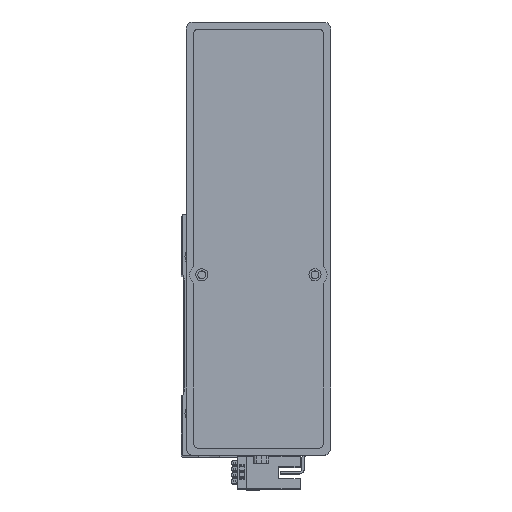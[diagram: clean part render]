
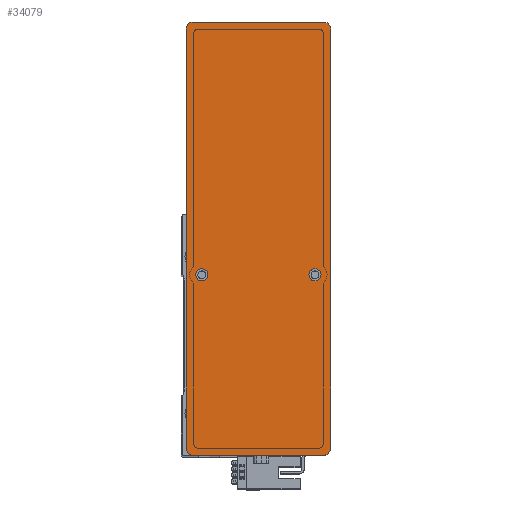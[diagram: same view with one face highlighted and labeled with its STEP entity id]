
A CAD part, top view. The second image highlights one B-rep face of the part: STEP entity #34079.
In plain terms, the highlighted planar face has unit normal (0, 0, 1) as drawn and (0, 0, -1) by its records, which use the part's own axes.
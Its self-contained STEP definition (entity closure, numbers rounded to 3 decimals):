
#76 = EDGE_LOOP ( 'NONE', ( #37734, #3587 ) ) ;
#1246 = VERTEX_POINT ( 'NONE', #21216 ) ;
#1843 = CARTESIAN_POINT ( 'NONE',  ( -87., -27., 0. ) ) ;
#1872 = VERTEX_POINT ( 'NONE', #12387 ) ;
#2768 = AXIS2_PLACEMENT_3D ( 'NONE', #11735, #33245, #14826 ) ;
#2986 = CIRCLE ( 'NONE', #11355, 3. ) ;
#3093 = CARTESIAN_POINT ( 'NONE',  ( 90., 30., 0. ) ) ;
#3587 = ORIENTED_EDGE ( 'NONE', *, *, #11272, .F. ) ;
#3686 = ORIENTED_EDGE ( 'NONE', *, *, #25617, .F. ) ;
#4386 = AXIS2_PLACEMENT_3D ( 'NONE', #21439, #24542, #6010 ) ;
#4894 = DIRECTION ( 'NONE',  ( 1., 0., 0. ) ) ;
#5344 = CARTESIAN_POINT ( 'NONE',  ( 90., -27., 0. ) ) ;
#5500 = CIRCLE ( 'NONE', #33505, 3. ) ;
#5827 = AXIS2_PLACEMENT_3D ( 'NONE', #6303, #27902, #9451 ) ;
#6010 = DIRECTION ( 'NONE',  ( 1., 0., 0. ) ) ;
#6303 = CARTESIAN_POINT ( 'NONE',  ( -15., 23.5, 0. ) ) ;
#6653 = LINE ( 'NONE', #14009, #22136 ) ;
#6791 = CARTESIAN_POINT ( 'NONE',  ( 87., -27., 0. ) ) ;
#6798 = CARTESIAN_POINT ( 'NONE',  ( -87., 27., 0. ) ) ;
#6962 = CARTESIAN_POINT ( 'NONE',  ( -87., 30., 0. ) ) ;
#7236 = DIRECTION ( 'NONE',  ( 1., 0., 0. ) ) ;
#7363 = ORIENTED_EDGE ( 'NONE', *, *, #35103, .F. ) ;
#7709 = DIRECTION ( 'NONE',  ( 0., 0., -1. ) ) ;
#7963 = FACE_OUTER_BOUND ( 'NONE', #12965, .T. ) ;
#8122 = CARTESIAN_POINT ( 'NONE',  ( -15., -23.5, 0. ) ) ;
#8200 = EDGE_CURVE ( 'NONE', #35787, #36024, #32770, .T. ) ;
#8280 = VERTEX_POINT ( 'NONE', #31199 ) ;
#9134 = VERTEX_POINT ( 'NONE', #36389 ) ;
#9347 = CARTESIAN_POINT ( 'NONE',  ( -15., -23.5, 0. ) ) ;
#9451 = DIRECTION ( 'NONE',  ( -1., 0., 0. ) ) ;
#9939 = DIRECTION ( 'NONE',  ( 1., 0., 0. ) ) ;
#9946 = DIRECTION ( 'NONE',  ( 1., 0., 0. ) ) ;
#10223 = AXIS2_PLACEMENT_3D ( 'NONE', #6791, #28360, #9939 ) ;
#10503 = VECTOR ( 'NONE', #37057, 1000. ) ;
#10843 = CARTESIAN_POINT ( 'NONE',  ( -17.5, 23.5, 0. ) ) ;
#10993 = VERTEX_POINT ( 'NONE', #10843 ) ;
#11249 = DIRECTION ( 'NONE',  ( -1., 0., 0. ) ) ;
#11272 = EDGE_CURVE ( 'NONE', #26203, #10993, #11602, .T. ) ;
#11355 = AXIS2_PLACEMENT_3D ( 'NONE', #26196, #7709, #29244 ) ;
#11602 = CIRCLE ( 'NONE', #5827, 2.5 ) ;
#11735 = CARTESIAN_POINT ( 'NONE',  ( -15., 23.5, 0. ) ) ;
#12230 = ORIENTED_EDGE ( 'NONE', *, *, #13960, .F. ) ;
#12387 = CARTESIAN_POINT ( 'NONE',  ( -17.5, -23.5, 0. ) ) ;
#12440 = AXIS2_PLACEMENT_3D ( 'NONE', #9347, #30862, #12447 ) ;
#12447 = DIRECTION ( 'NONE',  ( -1., 0., 0. ) ) ;
#12897 = CARTESIAN_POINT ( 'NONE',  ( -12.5, -23.5, 0. ) ) ;
#12965 = EDGE_LOOP ( 'NONE', ( #27522, #27464, #12230, #33723, #3686, #25960, #37235, #17663 ) ) ;
#13130 = EDGE_CURVE ( 'NONE', #1872, #18451, #19873, .T. ) ;
#13727 = CIRCLE ( 'NONE', #32280, 2.5 ) ;
#13804 = CARTESIAN_POINT ( 'NONE',  ( 90., -30., 0. ) ) ;
#13919 = CARTESIAN_POINT ( 'NONE',  ( 87., -30., 0. ) ) ;
#13937 = CIRCLE ( 'NONE', #10223, 3. ) ;
#13960 = EDGE_CURVE ( 'NONE', #33937, #20195, #6653, .T. ) ;
#14009 = CARTESIAN_POINT ( 'NONE',  ( 90., -30., 0. ) ) ;
#14826 = DIRECTION ( 'NONE',  ( -1., 0., 0. ) ) ;
#15766 = LINE ( 'NONE', #13804, #23987 ) ;
#16192 = FACE_BOUND ( 'NONE', #76, .T. ) ;
#16436 = VECTOR ( 'NONE', #24674, 1000. ) ;
#16856 = EDGE_CURVE ( 'NONE', #23369, #20195, #13937, .T. ) ;
#17478 = EDGE_CURVE ( 'NONE', #23369, #1246, #15766, .T. ) ;
#17663 = ORIENTED_EDGE ( 'NONE', *, *, #24249, .T. ) ;
#18445 = EDGE_CURVE ( 'NONE', #8280, #36024, #5500, .T. ) ;
#18451 = VERTEX_POINT ( 'NONE', #12897 ) ;
#18644 = CARTESIAN_POINT ( 'NONE',  ( -90., -30., 0. ) ) ;
#19161 = ORIENTED_EDGE ( 'NONE', *, *, #13130, .F. ) ;
#19873 = CIRCLE ( 'NONE', #12440, 2.5 ) ;
#20195 = VERTEX_POINT ( 'NONE', #13919 ) ;
#21216 = CARTESIAN_POINT ( 'NONE',  ( 90., 27., 0. ) ) ;
#21277 = CARTESIAN_POINT ( 'NONE',  ( -12.5, 23.5, 0. ) ) ;
#21439 = CARTESIAN_POINT ( 'NONE',  ( 0., 0., 0. ) ) ;
#22136 = VECTOR ( 'NONE', #7236, 1000. ) ;
#23369 = VERTEX_POINT ( 'NONE', #5344 ) ;
#23410 = DIRECTION ( 'NONE',  ( 0., 0., -1. ) ) ;
#23469 = CARTESIAN_POINT ( 'NONE',  ( -87., -30., 0. ) ) ;
#23634 = CIRCLE ( 'NONE', #2768, 2.5 ) ;
#23987 = VECTOR ( 'NONE', #32231, 1000. ) ;
#24249 = EDGE_CURVE ( 'NONE', #35787, #1246, #2986, .T. ) ;
#24409 = FACE_BOUND ( 'NONE', #39448, .T. ) ;
#24542 = DIRECTION ( 'NONE',  ( 0., 0., 1. ) ) ;
#24674 = DIRECTION ( 'NONE',  ( -1., 0., 0. ) ) ;
#25021 = EDGE_CURVE ( 'NONE', #10993, #26203, #23634, .T. ) ;
#25617 = EDGE_CURVE ( 'NONE', #8280, #9134, #34094, .T. ) ;
#25960 = ORIENTED_EDGE ( 'NONE', *, *, #18445, .T. ) ;
#26196 = CARTESIAN_POINT ( 'NONE',  ( 87., 27., 0. ) ) ;
#26203 = VERTEX_POINT ( 'NONE', #21277 ) ;
#26274 = CIRCLE ( 'NONE', #36020, 3. ) ;
#27464 = ORIENTED_EDGE ( 'NONE', *, *, #16856, .T. ) ;
#27522 = ORIENTED_EDGE ( 'NONE', *, *, #17478, .F. ) ;
#27902 = DIRECTION ( 'NONE',  ( 0., 0., -1. ) ) ;
#28360 = DIRECTION ( 'NONE',  ( 0., 0., -1. ) ) ;
#28371 = DIRECTION ( 'NONE',  ( 0., 0., -1. ) ) ;
#29244 = DIRECTION ( 'NONE',  ( 1., 0., 0. ) ) ;
#29441 = EDGE_CURVE ( 'NONE', #33937, #9134, #26274, .T. ) ;
#29666 = DIRECTION ( 'NONE',  ( 0., 0., -1. ) ) ;
#30862 = DIRECTION ( 'NONE',  ( 0., 0., -1. ) ) ;
#31199 = CARTESIAN_POINT ( 'NONE',  ( -90., 27., 0. ) ) ;
#32231 = DIRECTION ( 'NONE',  ( 0., 1., 0. ) ) ;
#32280 = AXIS2_PLACEMENT_3D ( 'NONE', #8122, #29666, #11249 ) ;
#32770 = LINE ( 'NONE', #3093, #16436 ) ;
#33245 = DIRECTION ( 'NONE',  ( 0., 0., -1. ) ) ;
#33505 = AXIS2_PLACEMENT_3D ( 'NONE', #6798, #28371, #9946 ) ;
#33648 = PLANE ( 'NONE',  #4386 ) ;
#33723 = ORIENTED_EDGE ( 'NONE', *, *, #29441, .T. ) ;
#33937 = VERTEX_POINT ( 'NONE', #23469 ) ;
#34079 = ADVANCED_FACE ( 'NONE', ( #16192, #24409, #7963 ), #33648, .F. ) ;
#34094 = LINE ( 'NONE', #18644, #10503 ) ;
#35103 = EDGE_CURVE ( 'NONE', #18451, #1872, #13727, .T. ) ;
#35787 = VERTEX_POINT ( 'NONE', #36409 ) ;
#36020 = AXIS2_PLACEMENT_3D ( 'NONE', #1843, #23410, #4894 ) ;
#36024 = VERTEX_POINT ( 'NONE', #6962 ) ;
#36389 = CARTESIAN_POINT ( 'NONE',  ( -90., -27., 0. ) ) ;
#36409 = CARTESIAN_POINT ( 'NONE',  ( 87., 30., 0. ) ) ;
#37057 = DIRECTION ( 'NONE',  ( 0., -1., 0. ) ) ;
#37235 = ORIENTED_EDGE ( 'NONE', *, *, #8200, .F. ) ;
#37734 = ORIENTED_EDGE ( 'NONE', *, *, #25021, .F. ) ;
#39448 = EDGE_LOOP ( 'NONE', ( #19161, #7363 ) ) ;
